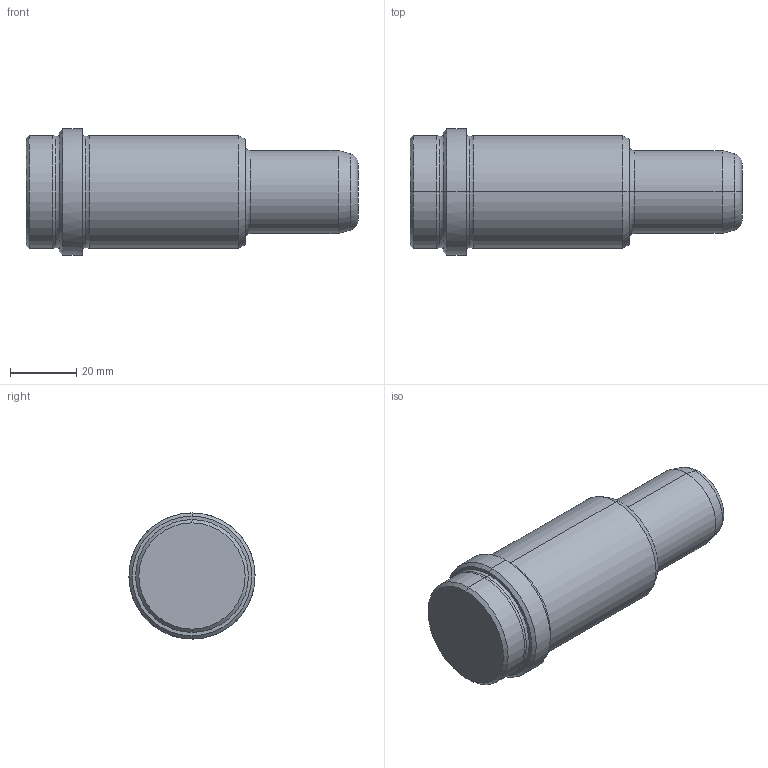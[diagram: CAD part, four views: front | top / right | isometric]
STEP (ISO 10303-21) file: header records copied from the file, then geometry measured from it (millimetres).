
FILE_DESCRIPTION(('CATIA V5 STEP Exchange'),'2;1');
FILE_NAME('C:\Users\Utente\Desktop\IO LAVORO\3D X SITO CF\X SITO\PLASTICA\357\357-25X66X100.stp','2021-08-14T09:23:58+00:00',('none'),('none'),'CATIA Version 5 Release 20 GA (IN-10)','CATIA V5 STEP AP203','none');
FILE_SCHEMA(('CONFIG_CONTROL_DESIGN'));
Length unit declared in the file: millimetre
Products named in the file (1): 357-25X66X100
Bounding box: 100 x 38 x 38 mm (x, y, z)
Volume: 77513.8 mm3; surface area: 11624.1 mm2
Topology: 1 solids, 1 shells, 33 faces, 96 edges, 68 vertices
Faces by surface type: torus 12, cone 8, cylinder 8, plane 5
Entity records: 1224 total; most frequent: CARTESIAN_POINT 310, ORIENTED_EDGE 192, DIRECTION 154, AXIS2_PLACEMENT_3D 106, EDGE_CURVE 96, CIRCLE 72, VERTEX_POINT 68, EDGE_LOOP 36
